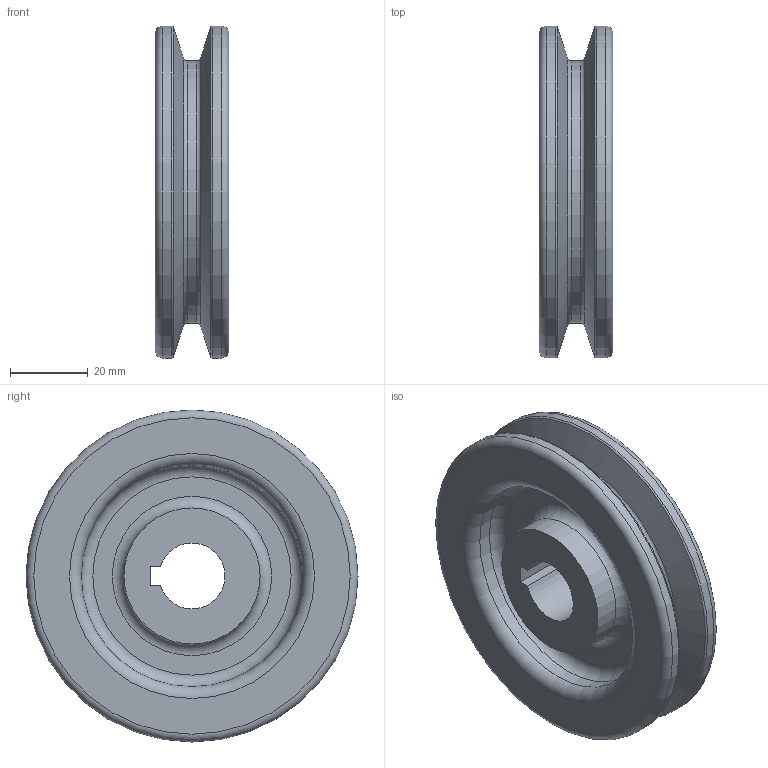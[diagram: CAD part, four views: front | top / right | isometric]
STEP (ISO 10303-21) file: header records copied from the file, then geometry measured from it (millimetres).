
FILE_DESCRIPTION(/* description */ (''),/* implementation_level */ '2;1');
FILE_NAME(/* name */ '',/* time_stamp */ '2025-03-27T11:27:46+09:00',/* author */ ('jhkim'),/* organization */ (''),/* preprocessor_version */ 'ST-DEVELOPER v20',/* originating_system */ 'Autodesk Inventor 2025',/* authorisation */ '');
FILE_SCHEMA (('AUTOMOTIVE_DESIGN { 1 0 10303 214 3 1 1 }'));
Length unit declared in the file: millimetre
Products named in the file (1): V 벨트 풀리
Bounding box: 19 x 85.4 x 85.4 mm (x, y, z)
Volume: 73937.4 mm3; surface area: 21462.5 mm2
Topology: 1 solids, 1 shells, 25 faces, 61 edges, 40 vertices
Faces by surface type: torus 9, plane 7, cylinder 6, cone 3
Full cylindrical faces by diameter (mm): 35 x1, 57 x1, 67.4 x1, 85.4 x2
Entity records: 806 total; most frequent: DIRECTION 153, CARTESIAN_POINT 131, ORIENTED_EDGE 122, AXIS2_PLACEMENT_3D 68, EDGE_CURVE 61, CIRCLE 42, VERTEX_POINT 40, EDGE_LOOP 29
